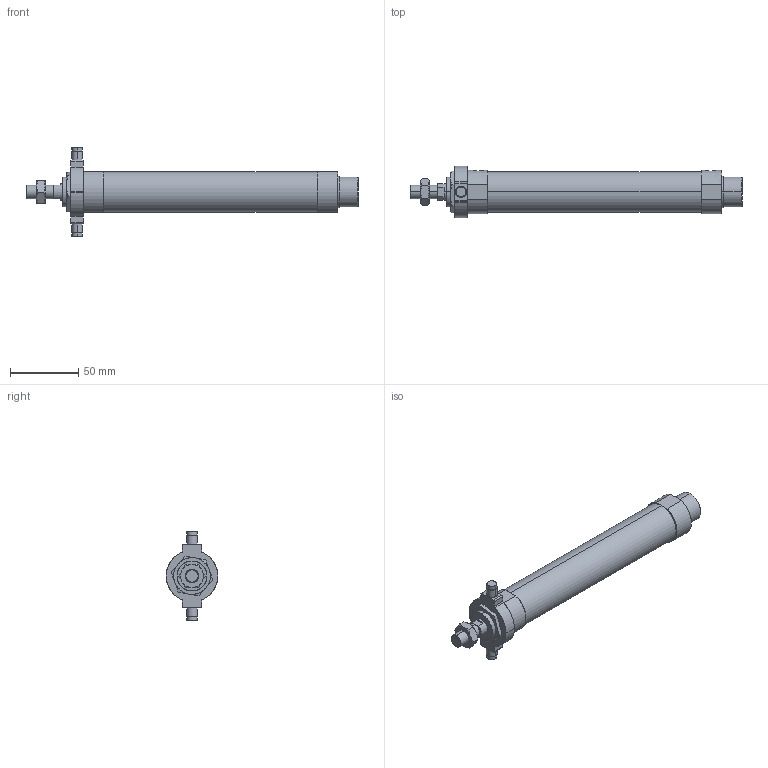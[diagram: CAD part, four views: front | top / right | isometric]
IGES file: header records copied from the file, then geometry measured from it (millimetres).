
Start section: SolidWorks IGES file using analytic representation for surfaces
Global section: file name: C:\Users\Toshiba\Desktop\J#2-25-125-T.IGS; native system: SolidWorks 2014; preprocessor: SolidWorks 2014; author: Toshiba; date: 160308.152600; units: millimetre
Bounding box: 244 x 38 x 66 mm (x, y, z)
Surface area: 29730.4 mm2 (no closed solid volume)
Topology: 0 solids, 0 shells, 136 faces, 2248 edges, 2244 vertices
Faces by surface type: bspline 71, revolution 65
